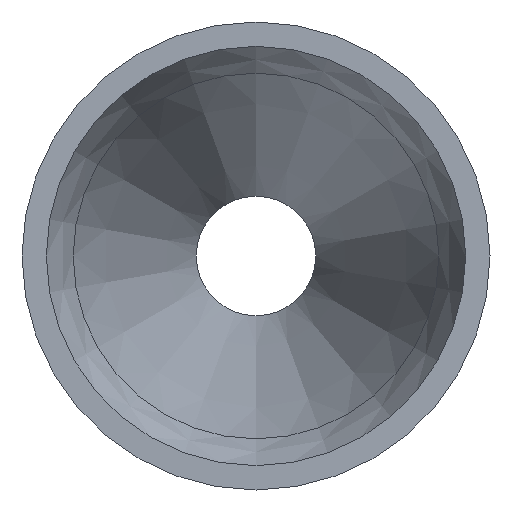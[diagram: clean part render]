
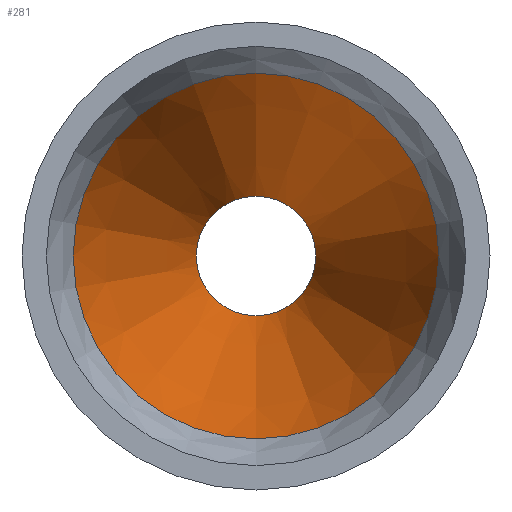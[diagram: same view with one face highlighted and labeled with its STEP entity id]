
A CAD part, left-side view. The second image highlights one B-rep face of the part: STEP entity #281.
In plain terms, the highlighted conical face has half-angle 16.545 degrees and reference radius 7.5 mm.
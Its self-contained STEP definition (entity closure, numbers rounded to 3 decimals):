
#14 = DIRECTION ( 'NONE',  ( 0., 0., 1. ) ) ;
#15 = AXIS2_PLACEMENT_3D ( 'NONE', #190, #145, #14 ) ;
#65 = EDGE_LOOP ( 'NONE', ( #200 ) ) ;
#70 = ORIENTED_EDGE ( 'NONE', *, *, #71, .F. ) ;
#71 = EDGE_CURVE ( 'NONE', #140, #140, #297, .T. ) ;
#95 = AXIS2_PLACEMENT_3D ( 'NONE', #272, #196, #154 ) ;
#107 = FACE_OUTER_BOUND ( 'NONE', #122, .T. ) ;
#118 = AXIS2_PLACEMENT_3D ( 'NONE', #159, #245, #213 ) ;
#119 = CARTESIAN_POINT ( 'NONE',  ( 373.855, 0., 2.45 ) ) ;
#122 = EDGE_LOOP ( 'NONE', ( #70 ) ) ;
#126 = CARTESIAN_POINT ( 'NONE',  ( 356.855, 0., 7.5 ) ) ;
#139 = CIRCLE ( 'NONE', #15, 2.45 ) ;
#140 = VERTEX_POINT ( 'NONE', #126 ) ;
#145 = DIRECTION ( 'NONE',  ( 1., 0., 0. ) ) ;
#154 = DIRECTION ( 'NONE',  ( 0., 0., 1. ) ) ;
#159 = CARTESIAN_POINT ( 'NONE',  ( 356.855, 0., 0. ) ) ;
#173 = EDGE_CURVE ( 'NONE', #278, #278, #139, .T. ) ;
#177 = FACE_BOUND ( 'NONE', #65, .T. ) ;
#190 = CARTESIAN_POINT ( 'NONE',  ( 373.855, 0., 0. ) ) ;
#196 = DIRECTION ( 'NONE',  ( -1., 0., 0. ) ) ;
#200 = ORIENTED_EDGE ( 'NONE', *, *, #173, .T. ) ;
#213 = DIRECTION ( 'NONE',  ( 0., 0., 1. ) ) ;
#221 = CONICAL_SURFACE ( 'NONE', #95, 7.5, 0.289 ) ;
#245 = DIRECTION ( 'NONE',  ( 1., 0., 0. ) ) ;
#272 = CARTESIAN_POINT ( 'NONE',  ( 356.855, 0., 0. ) ) ;
#278 = VERTEX_POINT ( 'NONE', #119 ) ;
#281 = ADVANCED_FACE ( 'NONE', ( #107, #177 ), #221, .F. ) ;
#297 = CIRCLE ( 'NONE', #118, 7.5 ) ;
